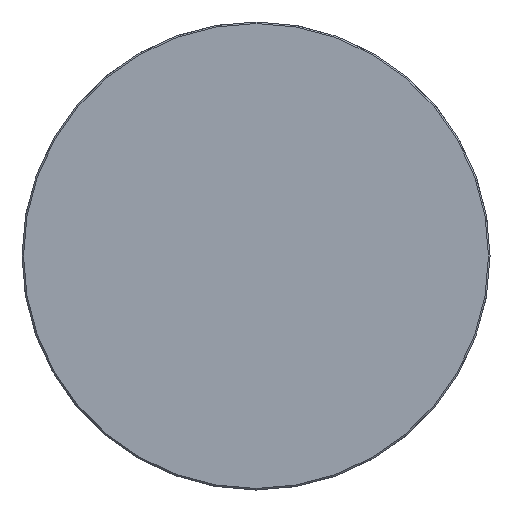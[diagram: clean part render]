
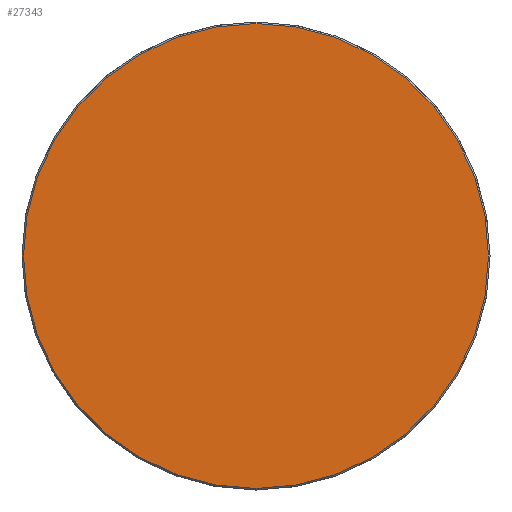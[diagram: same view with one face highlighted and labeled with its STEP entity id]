
A CAD part, left-side view. The second image highlights one B-rep face of the part: STEP entity #27343.
In plain terms, the highlighted planar face has unit normal (-1, 0, 0).
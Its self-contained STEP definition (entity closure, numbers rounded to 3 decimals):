
#2012 = ORIENTED_EDGE ( 'NONE', *, *, #3502, .T. ) ;
#2437 = ORIENTED_EDGE ( 'NONE', *, *, #27787, .T. ) ;
#3502 = EDGE_CURVE ( 'NONE', #6908, #19821, #20922, .T. ) ;
#6908 = VERTEX_POINT ( 'NONE', #8503 ) ;
#8173 = AXIS2_PLACEMENT_3D ( 'NONE', #14949, #14955, #14956 ) ;
#8503 = CARTESIAN_POINT ( 'NONE',  ( -98.307, -3.842, 27.797 ) ) ;
#11830 = CARTESIAN_POINT ( 'NONE',  ( -98.307, -3.842, -33.803 ) ) ;
#14154 = FACE_OUTER_BOUND ( 'NONE', #26465, .T. ) ;
#14481 = CIRCLE ( 'NONE', #15656, 30.8 ) ;
#14949 = CARTESIAN_POINT ( 'NONE',  ( -98.307, 27.158, -3.003 ) ) ;
#14953 = PLANE ( 'NONE',  #8173 ) ;
#14955 = DIRECTION ( 'NONE',  ( 1., 0., 0. ) ) ;
#14956 = DIRECTION ( 'NONE',  ( 0., 0., -1. ) ) ;
#15468 = CARTESIAN_POINT ( 'NONE',  ( -98.307, -3.842, -3.003 ) ) ;
#15469 = DIRECTION ( 'NONE',  ( -1., 0., 0. ) ) ;
#15470 = DIRECTION ( 'NONE',  ( 0., 0., -1. ) ) ;
#15656 = AXIS2_PLACEMENT_3D ( 'NONE', #15468, #15469, #15470 ) ;
#15916 = AXIS2_PLACEMENT_3D ( 'NONE', #22795, #22796, #22797 ) ;
#19821 = VERTEX_POINT ( 'NONE', #11830 ) ;
#20922 = CIRCLE ( 'NONE', #15916, 30.8 ) ;
#22795 = CARTESIAN_POINT ( 'NONE',  ( -98.307, -3.842, -3.003 ) ) ;
#22796 = DIRECTION ( 'NONE',  ( -1., 0., 0. ) ) ;
#22797 = DIRECTION ( 'NONE',  ( 0., 0., -1. ) ) ;
#26465 = EDGE_LOOP ( 'NONE', ( #2437, #2012 ) ) ;
#27343 = ADVANCED_FACE ( 'NONE', ( #14154 ), #14953, .F. ) ;
#27787 = EDGE_CURVE ( 'NONE', #19821, #6908, #14481, .T. ) ;
